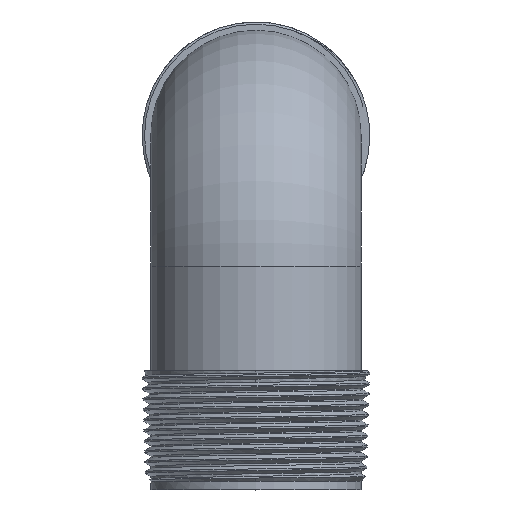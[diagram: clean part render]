
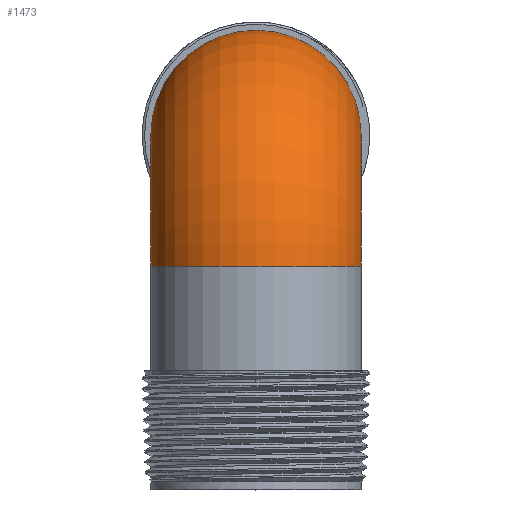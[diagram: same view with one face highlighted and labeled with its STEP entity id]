
A CAD part, top view. The second image highlights one B-rep face of the part: STEP entity #1473.
In plain terms, the highlighted toroidal (fillet/blend) face has major radius 27.686 mm and minor radius 22.225 mm.
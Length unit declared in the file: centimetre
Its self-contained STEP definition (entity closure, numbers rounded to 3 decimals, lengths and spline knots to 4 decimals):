
#283=TOROIDAL_SURFACE('',#1571,2.7686,2.2225);
#298=CIRCLE('',#1523,2.2225);
#310=CIRCLE('',#1569,2.2225);
#384=VERTEX_POINT('',#30936);
#453=VERTEX_POINT('',#59964);
#690=EDGE_CURVE('',#384,#384,#298,.T.);
#792=EDGE_CURVE('',#453,#453,#310,.T.);
#1211=ORIENTED_EDGE('',*,*,#690,.T.);
#1212=ORIENTED_EDGE('',*,*,#792,.T.);
#1302=EDGE_LOOP('',(#1211));
#1303=EDGE_LOOP('',(#1212));
#1393=FACE_BOUND('',#1302,.T.);
#1394=FACE_BOUND('',#1303,.T.);
#1473=ADVANCED_FACE('',(#1393,#1394),#283,.T.);
#1523=AXIS2_PLACEMENT_3D('',#30935,#1694,#1695);
#1569=AXIS2_PLACEMENT_3D('',#59963,#1811,#1812);
#1571=AXIS2_PLACEMENT_3D('',#59966,#1814,$);
#1694=DIRECTION('',(0.,1.,0.));
#1695=DIRECTION('',(0.,0.,2.223));
#1811=DIRECTION('',(0.,0.,1.));
#1812=DIRECTION('',(0.,2.223,0.));
#1814=DIRECTION('',(1.,0.,0.));
#30935=CARTESIAN_POINT('',(0.,0.,2.7686));
#30936=CARTESIAN_POINT('',(0.,0.,
0.5461));
#59963=CARTESIAN_POINT('',(0.,2.7686,0.));
#59964=CARTESIAN_POINT('',(0.,0.5461,0.));
#59966=CARTESIAN_POINT('',(0.,0.,0.));
